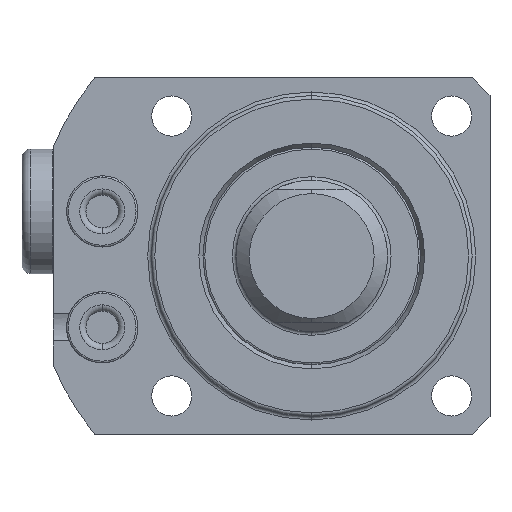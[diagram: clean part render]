
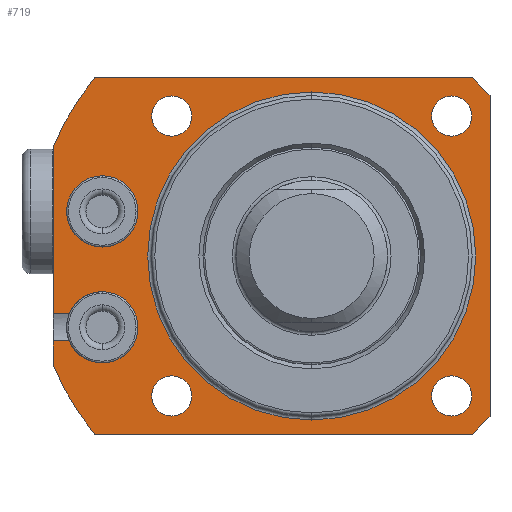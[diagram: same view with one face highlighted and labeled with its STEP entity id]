
A CAD part, front view. The second image highlights one B-rep face of the part: STEP entity #719.
In plain terms, the highlighted planar face has unit normal (0, -1, 0).
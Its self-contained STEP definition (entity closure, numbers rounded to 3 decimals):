
#302=PLANE('',#4066);
#355=FACE_BOUND('',#1193,.T.);
#356=FACE_BOUND('',#1194,.T.);
#357=FACE_BOUND('',#1195,.T.);
#358=FACE_BOUND('',#1196,.T.);
#359=FACE_BOUND('',#1197,.T.);
#360=FACE_BOUND('',#1198,.T.);
#361=FACE_BOUND('',#1199,.T.);
#719=ADVANCED_FACE('',(#355,#356,#357,#358,#359,#360,#361),#302,.T.);
#1193=EDGE_LOOP('',(#2295,#2296,#2297,#2298,#2299,#2300,#2301,#2302,#2303,
#2304,#2305,#2306,#2307,#2308));
#1194=EDGE_LOOP('',(#2309,#2310));
#1195=EDGE_LOOP('',(#2311,#2312));
#1196=EDGE_LOOP('',(#2313,#2314));
#1197=EDGE_LOOP('',(#2315,#2316));
#1198=EDGE_LOOP('',(#2317,#2318));
#1199=EDGE_LOOP('',(#2319,#2320));
#1417=LINE('',#6697,#1578);
#1418=LINE('',#6700,#1579);
#1419=LINE('',#6702,#1580);
#1420=LINE('',#6706,#1581);
#1421=LINE('',#6708,#1582);
#1422=LINE('',#6710,#1583);
#1423=LINE('',#6712,#1584);
#1424=LINE('',#6714,#1585);
#1425=LINE('',#6718,#1586);
#1578=VECTOR('',#5110,1.);
#1579=VECTOR('',#5113,1.);
#1580=VECTOR('',#5114,1.);
#1581=VECTOR('',#5117,1.);
#1582=VECTOR('',#5118,1.);
#1583=VECTOR('',#5119,1.);
#1584=VECTOR('',#5120,1.);
#1585=VECTOR('',#5121,1.);
#1586=VECTOR('',#5124,1.);
#2295=ORIENTED_EDGE('',*,*,#3299,.F.);
#2296=ORIENTED_EDGE('',*,*,#3161,.F.);
#2297=ORIENTED_EDGE('',*,*,#3300,.F.);
#2298=ORIENTED_EDGE('',*,*,#3163,.F.);
#2299=ORIENTED_EDGE('',*,*,#3301,.F.);
#2300=ORIENTED_EDGE('',*,*,#3302,.T.);
#2301=ORIENTED_EDGE('',*,*,#3303,.T.);
#2302=ORIENTED_EDGE('',*,*,#3304,.T.);
#2303=ORIENTED_EDGE('',*,*,#3305,.T.);
#2304=ORIENTED_EDGE('',*,*,#3306,.T.);
#2305=ORIENTED_EDGE('',*,*,#3307,.T.);
#2306=ORIENTED_EDGE('',*,*,#3308,.T.);
#2307=ORIENTED_EDGE('',*,*,#3309,.T.);
#2308=ORIENTED_EDGE('',*,*,#3310,.T.);
#2309=ORIENTED_EDGE('',*,*,#3311,.F.);
#2310=ORIENTED_EDGE('',*,*,#3157,.F.);
#2311=ORIENTED_EDGE('',*,*,#3185,.F.);
#2312=ORIENTED_EDGE('',*,*,#3312,.F.);
#2313=ORIENTED_EDGE('',*,*,#3193,.F.);
#2314=ORIENTED_EDGE('',*,*,#3313,.F.);
#2315=ORIENTED_EDGE('',*,*,#3201,.F.);
#2316=ORIENTED_EDGE('',*,*,#3314,.F.);
#2317=ORIENTED_EDGE('',*,*,#3209,.F.);
#2318=ORIENTED_EDGE('',*,*,#3315,.F.);
#2319=ORIENTED_EDGE('',*,*,#3316,.F.);
#2320=ORIENTED_EDGE('',*,*,#3252,.F.);
#2747=VERTEX_POINT('',#6098);
#2748=VERTEX_POINT('',#6100);
#2751=VERTEX_POINT('',#6107);
#2752=VERTEX_POINT('',#6109);
#2753=VERTEX_POINT('',#6114);
#2754=VERTEX_POINT('',#6116);
#2773=VERTEX_POINT('',#6254);
#2774=VERTEX_POINT('',#6255);
#2781=VERTEX_POINT('',#6302);
#2782=VERTEX_POINT('',#6303);
#2789=VERTEX_POINT('',#6350);
#2790=VERTEX_POINT('',#6351);
#2797=VERTEX_POINT('',#6398);
#2798=VERTEX_POINT('',#6399);
#2831=VERTEX_POINT('',#6515);
#2832=VERTEX_POINT('',#6517);
#2867=VERTEX_POINT('',#6698);
#2868=VERTEX_POINT('',#6701);
#2869=VERTEX_POINT('',#6703);
#2870=VERTEX_POINT('',#6705);
#2871=VERTEX_POINT('',#6707);
#2872=VERTEX_POINT('',#6709);
#2873=VERTEX_POINT('',#6711);
#2874=VERTEX_POINT('',#6713);
#2875=VERTEX_POINT('',#6715);
#2876=VERTEX_POINT('',#6717);
#3157=EDGE_CURVE('',#2747,#2748,#3547,.T.);
#3161=EDGE_CURVE('',#2751,#2752,#3549,.T.);
#3163=EDGE_CURVE('',#2753,#2754,#3550,.T.);
#3185=EDGE_CURVE('',#2773,#2774,#3556,.T.);
#3193=EDGE_CURVE('',#2781,#2782,#3559,.T.);
#3201=EDGE_CURVE('',#2789,#2790,#3562,.T.);
#3209=EDGE_CURVE('',#2797,#2798,#3565,.T.);
#3252=EDGE_CURVE('',#2831,#2832,#3591,.T.);
#3299=EDGE_CURVE('',#2752,#2867,#1417,.T.);
#3300=EDGE_CURVE('',#2754,#2751,#3613,.T.);
#3301=EDGE_CURVE('',#2868,#2753,#1418,.T.);
#3302=EDGE_CURVE('',#2868,#2869,#1419,.T.);
#3303=EDGE_CURVE('',#2869,#2870,#3614,.T.);
#3304=EDGE_CURVE('',#2870,#2871,#1420,.T.);
#3305=EDGE_CURVE('',#2871,#2872,#1421,.T.);
#3306=EDGE_CURVE('',#2872,#2873,#1422,.T.);
#3307=EDGE_CURVE('',#2873,#2874,#1423,.T.);
#3308=EDGE_CURVE('',#2874,#2875,#1424,.T.);
#3309=EDGE_CURVE('',#2875,#2876,#3615,.T.);
#3310=EDGE_CURVE('',#2876,#2867,#1425,.T.);
#3311=EDGE_CURVE('',#2748,#2747,#3616,.T.);
#3312=EDGE_CURVE('',#2774,#2773,#3617,.T.);
#3313=EDGE_CURVE('',#2782,#2781,#3618,.T.);
#3314=EDGE_CURVE('',#2790,#2789,#3619,.T.);
#3315=EDGE_CURVE('',#2798,#2797,#3620,.T.);
#3316=EDGE_CURVE('',#2832,#2831,#3621,.T.);
#3547=CIRCLE('',#3956,4.);
#3549=CIRCLE('',#3959,4.);
#3550=CIRCLE('',#3960,4.);
#3556=CIRCLE('',#3973,2.25);
#3559=CIRCLE('',#3978,2.25);
#3562=CIRCLE('',#3983,2.25);
#3565=CIRCLE('',#3988,2.25);
#3591=CIRCLE('',#4025,18.4);
#3613=CIRCLE('',#4057,4.);
#3614=CIRCLE('',#4058,31.5);
#3615=CIRCLE('',#4059,31.5);
#3616=CIRCLE('',#4060,4.);
#3617=CIRCLE('',#4061,2.25);
#3618=CIRCLE('',#4062,2.25);
#3619=CIRCLE('',#4063,2.25);
#3620=CIRCLE('',#4064,2.25);
#3621=CIRCLE('',#4065,18.4);
#3956=AXIS2_PLACEMENT_3D('',#6099,#4851,#4852);
#3959=AXIS2_PLACEMENT_3D('',#6108,#4859,#4860);
#3960=AXIS2_PLACEMENT_3D('',#6115,#4861,#4862);
#3973=AXIS2_PLACEMENT_3D('',#6253,#4900,#4901);
#3978=AXIS2_PLACEMENT_3D('',#6301,#4914,#4915);
#3983=AXIS2_PLACEMENT_3D('',#6349,#4928,#4929);
#3988=AXIS2_PLACEMENT_3D('',#6397,#4942,#4943);
#4025=AXIS2_PLACEMENT_3D('',#6516,#5032,#5033);
#4057=AXIS2_PLACEMENT_3D('',#6699,#5111,#5112);
#4058=AXIS2_PLACEMENT_3D('',#6704,#5115,#5116);
#4059=AXIS2_PLACEMENT_3D('',#6716,#5122,#5123);
#4060=AXIS2_PLACEMENT_3D('',#6719,#5125,#5126);
#4061=AXIS2_PLACEMENT_3D('',#6720,#5127,#5128);
#4062=AXIS2_PLACEMENT_3D('',#6721,#5129,#5130);
#4063=AXIS2_PLACEMENT_3D('',#6722,#5131,#5132);
#4064=AXIS2_PLACEMENT_3D('',#6723,#5133,#5134);
#4065=AXIS2_PLACEMENT_3D('',#6724,#5135,#5136);
#4066=AXIS2_PLACEMENT_3D('',#6725,#5137,#5138);
#4851=DIRECTION('',(0.,-1.,0.));
#4852=DIRECTION('',(0.,0.,-1.));
#4859=DIRECTION('',(0.,-1.,0.));
#4860=DIRECTION('',(0.,0.,-1.));
#4861=DIRECTION('',(0.,-1.,0.));
#4862=DIRECTION('',(0.,0.,-1.));
#4900=DIRECTION('',(0.,-1.,0.));
#4901=DIRECTION('',(0.,0.,-1.));
#4914=DIRECTION('',(0.,-1.,0.));
#4915=DIRECTION('',(0.,0.,-1.));
#4928=DIRECTION('',(0.,-1.,0.));
#4929=DIRECTION('',(0.,0.,-1.));
#4942=DIRECTION('',(0.,-1.,0.));
#4943=DIRECTION('',(0.,0.,-1.));
#5032=DIRECTION('',(0.,-1.,0.));
#5033=DIRECTION('',(0.,0.,-1.));
#5110=DIRECTION('',(-1.,0.,0.));
#5111=DIRECTION('',(0.,-1.,0.));
#5112=DIRECTION('',(0.,0.,-1.));
#5113=DIRECTION('',(1.,0.,0.));
#5114=DIRECTION('',(0.,0.,-1.));
#5115=DIRECTION('',(0.,-1.,0.));
#5116=DIRECTION('',(0.,0.,-1.));
#5117=DIRECTION('',(1.,0.,0.));
#5118=DIRECTION('',(0.707,0.,0.707));
#5119=DIRECTION('',(0.,0.,1.));
#5120=DIRECTION('',(-0.707,0.,0.707));
#5121=DIRECTION('',(-1.,0.,0.));
#5122=DIRECTION('',(0.,-1.,0.));
#5123=DIRECTION('',(0.,0.,-1.));
#5124=DIRECTION('',(0.,0.,-1.));
#5125=DIRECTION('',(0.,-1.,0.));
#5126=DIRECTION('',(0.,0.,-1.));
#5127=DIRECTION('',(0.,-1.,0.));
#5128=DIRECTION('',(0.,0.,-1.));
#5129=DIRECTION('',(0.,-1.,0.));
#5130=DIRECTION('',(0.,0.,-1.));
#5131=DIRECTION('',(0.,-1.,0.));
#5132=DIRECTION('',(0.,0.,-1.));
#5133=DIRECTION('',(0.,-1.,0.));
#5134=DIRECTION('',(0.,0.,-1.));
#5135=DIRECTION('',(0.,-1.,0.));
#5136=DIRECTION('',(0.,0.,-1.));
#5137=DIRECTION('',(0.,-1.,0.));
#5138=DIRECTION('',(0.,0.,1.));
#6098=CARTESIAN_POINT('',(-23.5,55.5,9.));
#6099=CARTESIAN_POINT('',(-23.5,55.5,5.));
#6100=CARTESIAN_POINT('',(-23.5,55.5,1.));
#6107=CARTESIAN_POINT('',(-23.5,55.5,-4.));
#6108=CARTESIAN_POINT('',(-23.5,55.5,-8.));
#6109=CARTESIAN_POINT('',(-27.2,55.5,-6.48));
#6114=CARTESIAN_POINT('',(-27.2,55.5,-9.52));
#6115=CARTESIAN_POINT('',(-23.5,55.5,-8.));
#6116=CARTESIAN_POINT('',(-23.5,55.5,-12.));
#6253=CARTESIAN_POINT('',(-15.7,55.5,-15.7));
#6254=CARTESIAN_POINT('',(-15.7,55.5,-13.45));
#6255=CARTESIAN_POINT('',(-15.7,55.5,-17.95));
#6301=CARTESIAN_POINT('',(-15.7,55.5,15.7));
#6302=CARTESIAN_POINT('',(-15.7,55.5,17.95));
#6303=CARTESIAN_POINT('',(-15.7,55.5,13.45));
#6349=CARTESIAN_POINT('',(15.7,55.5,-15.7));
#6350=CARTESIAN_POINT('',(15.7,55.5,-13.45));
#6351=CARTESIAN_POINT('',(15.7,55.5,-17.95));
#6397=CARTESIAN_POINT('',(15.7,55.5,15.7));
#6398=CARTESIAN_POINT('',(15.7,55.5,17.95));
#6399=CARTESIAN_POINT('',(15.7,55.5,13.45));
#6515=CARTESIAN_POINT('',(0.,55.5,18.4));
#6516=CARTESIAN_POINT('',(0.,55.5,0.));
#6517=CARTESIAN_POINT('',(0.,55.5,-18.4));
#6697=CARTESIAN_POINT('',(-24.,55.5,-6.48));
#6698=CARTESIAN_POINT('',(-29.,55.5,-6.48));
#6699=CARTESIAN_POINT('',(-23.5,55.5,-8.));
#6700=CARTESIAN_POINT('',(-24.,55.5,-9.52));
#6701=CARTESIAN_POINT('',(-29.,55.5,-9.52));
#6702=CARTESIAN_POINT('',(-29.,55.5,0.));
#6703=CARTESIAN_POINT('',(-29.,55.5,-12.298));
#6704=CARTESIAN_POINT('',(0.,55.5,0.));
#6705=CARTESIAN_POINT('',(-24.336,55.5,-20.));
#6706=CARTESIAN_POINT('',(31.5,55.5,-20.));
#6707=CARTESIAN_POINT('',(18.,55.5,-20.));
#6708=CARTESIAN_POINT('',(34.75,55.5,-3.25));
#6709=CARTESIAN_POINT('',(20.,55.5,-18.));
#6710=CARTESIAN_POINT('',(20.,55.5,0.));
#6711=CARTESIAN_POINT('',(20.,55.5,18.));
#6712=CARTESIAN_POINT('',(34.75,55.5,3.25));
#6713=CARTESIAN_POINT('',(18.,55.5,20.));
#6714=CARTESIAN_POINT('',(31.5,55.5,20.));
#6715=CARTESIAN_POINT('',(-24.336,55.5,20.));
#6716=CARTESIAN_POINT('',(0.,55.5,0.));
#6717=CARTESIAN_POINT('',(-29.,55.5,12.298));
#6718=CARTESIAN_POINT('',(-29.,55.5,0.));
#6719=CARTESIAN_POINT('',(-23.5,55.5,5.));
#6720=CARTESIAN_POINT('',(-15.7,55.5,-15.7));
#6721=CARTESIAN_POINT('',(-15.7,55.5,15.7));
#6722=CARTESIAN_POINT('',(15.7,55.5,-15.7));
#6723=CARTESIAN_POINT('',(15.7,55.5,15.7));
#6724=CARTESIAN_POINT('',(0.,55.5,0.));
#6725=CARTESIAN_POINT('',(31.5,55.5,0.));
